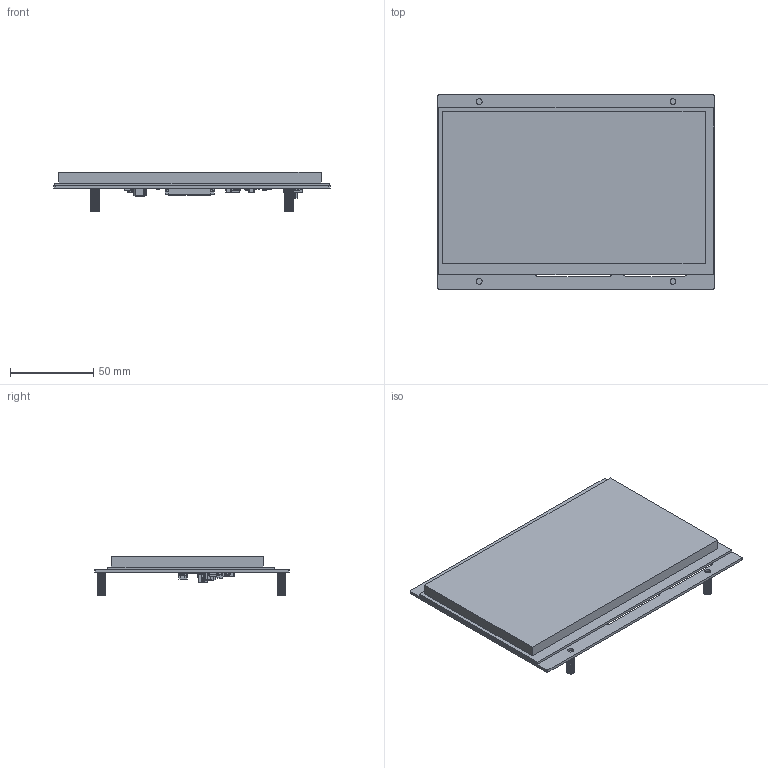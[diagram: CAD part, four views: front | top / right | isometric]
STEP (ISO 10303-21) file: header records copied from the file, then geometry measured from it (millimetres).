
FILE_DESCRIPTION(('Open CASCADE Model'),'2;1');
FILE_NAME('Open CASCADE Shape Model','2024-03-06T11:45:03',('Author'),( 'Open CASCADE'),'Open CASCADE STEP processor 7.5','Open CASCADE 7.5' ,'Unknown');
FILE_SCHEMA(('AUTOMOTIVE_DESIGN { 1 0 10303 214 1 1 1 1 }'));
Length unit declared in the file: millimetre
Products named in the file (173): PCB; Board; Open CASCADE STEP translator 7.5 1.1.1; CN2; FTSH-105-01-L-DV-K; _FTSH-105-01-L-DV-K_body; _FTSH-105-01-L-DV-K_pins1; _FTSH-105-01-L-DV-K_pins2; 6436031184; Extruded; 6436030864; 6436030704; 6436030544; H4; 6436035504; H3; H2; H1; CN1; FH52E-40S-0.5SH; 6436030304; 6436029984; 6436029824; 6436029664; 6436029504; 6436029344; 6436029184; R1; R0603; 6435624256; R3; R0402; 6436020064; R17; FERRITE_BEAD_0603; User Library-FB_1608-1_Pad001; User Library-FB_1608-1_Cut; 6436033264; C4; C0402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
Assembly tree (326 placements, depth 4):
  PCB
    Board
      Open CASCADE STEP translator 7.5 1.1.1
    CN2
      FTSH-105-01-L-DV-K
        _FTSH-105-01-L-DV-K_body
        _FTSH-105-01-L-DV-K_pins1
        _FTSH-105-01-L-DV-K_pins2
      6436031184
        Extruded
      6436030864
        Extruded
      6436030704
        Extruded
      6436030544  x2
        Extruded
    H4
      6436035504
        Extruded
    H3
      6436035504
        Extruded
    H2
      6436035504
        Extruded
    H1
      6436035504
        Extruded
    CN1
      FH52E-40S-0.5SH
      6436030304
        Extruded
      6436029984
        Extruded
      6436029824
        Extruded
      6436029664
        Extruded
      6436029504  x2
        Extruded
      6436029344  x27
        Extruded
      6436029184  x53
        Extruded
    R1
      R0603
      6435624256
        Extruded
    R3
      R0402
      6436020064
        Extruded
    R17
      FERRITE_BEAD_0603
        User Library-FB_1608-1_Pad001
        User Library-FB_1608-1_Cut
      6436033264
        Extruded
    C4
      C0402
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Bounding box: 166 x 117 x 23.54 mm (x, y, z)
Volume: 152096 mm3; surface area: 113336.1 mm2
Topology: 255 solids, 255 shells, 11865 faces, 29717 edges, 17991 vertices
Faces by surface type: plane 6299, cylinder 2910, bspline 1664, sphere 768, torus 126, revolution 96, cone 2
Full cylindrical faces by diameter (mm): 0.4 x4, 0.6 x1, 1 x2, 3.5 x4, 5.5 x1
Entity records: 211139 total; most frequent: CARTESIAN_POINT 48755, ORIENTED_EDGE 31794, DIRECTION 27889, EDGE_CURVE 15897, LINE 12645, VECTOR 12645, VERTEX_POINT 10326, AXIS2_PLACEMENT_3D 7618
